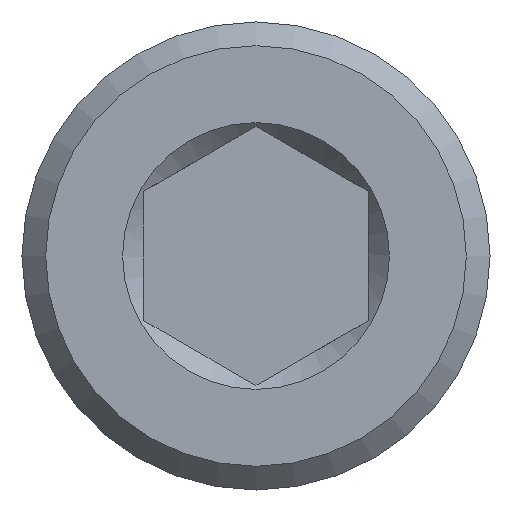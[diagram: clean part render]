
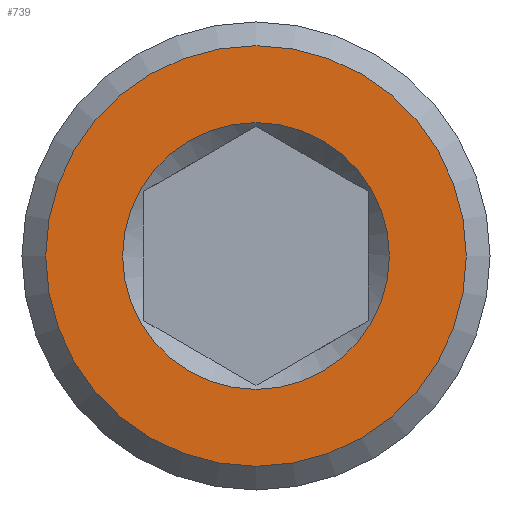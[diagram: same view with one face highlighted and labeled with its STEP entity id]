
A CAD part, front view. The second image highlights one B-rep face of the part: STEP entity #739.
In plain terms, the highlighted planar face has unit normal (0, -1, 0).
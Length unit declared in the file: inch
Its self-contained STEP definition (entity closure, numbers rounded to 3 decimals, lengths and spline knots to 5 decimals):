
#19=FACE_BOUND('',#161,.T.);
#74=CIRCLE('',#820,0.371);
#75=CIRCLE('',#822,0.585);
#117=FACE_OUTER_BOUND('',#160,.T.);
#160=EDGE_LOOP('',(#658));
#161=EDGE_LOOP('',(#659));
#346=VERTEX_POINT('',#1640);
#347=VERTEX_POINT('',#1644);
#453=EDGE_CURVE('',#346,#346,#74,.T.);
#454=EDGE_CURVE('',#347,#347,#75,.T.);
#658=ORIENTED_EDGE('',*,*,#454,.F.);
#659=ORIENTED_EDGE('',*,*,#453,.F.);
#700=PLANE('',#821);
#739=ADVANCED_FACE('',(#117,#19),#700,.T.);
#820=AXIS2_PLACEMENT_3D('',#1642,#999,#1000);
#821=AXIS2_PLACEMENT_3D('',#1643,#1001,#1002);
#822=AXIS2_PLACEMENT_3D('',#1645,#1003,#1004);
#999=DIRECTION('center_axis',(0.,-1.,0.));
#1000=DIRECTION('ref_axis',(0.,0.,1.));
#1001=DIRECTION('center_axis',(0.,-1.,0.));
#1002=DIRECTION('ref_axis',(0.,0.,-1.));
#1003=DIRECTION('center_axis',(0.,1.,0.));
#1004=DIRECTION('ref_axis',(0.,0.,1.));
#1640=CARTESIAN_POINT('',(0.,0.,-0.371));
#1642=CARTESIAN_POINT('Origin',(0.,0.,0.));
#1643=CARTESIAN_POINT('Origin',(0.,0.,-0.311));
#1644=CARTESIAN_POINT('',(0.,0.,-0.585));
#1645=CARTESIAN_POINT('Origin',(0.,0.,0.));
